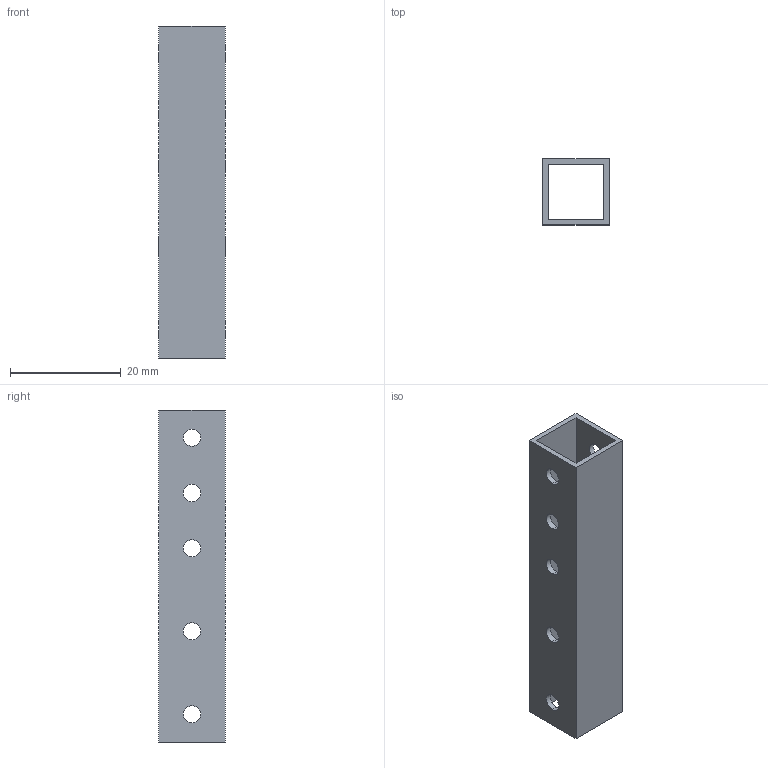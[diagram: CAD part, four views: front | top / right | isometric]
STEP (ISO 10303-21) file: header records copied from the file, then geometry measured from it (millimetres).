
FILE_DESCRIPTION (( 'STEP AP203' ), '1' );
FILE_NAME ('源倛抯奪-3.STEP', '2026-07-29T04:00:06', ( '' ), ( '' ), 'SwSTEP 2.0', 'SolidWorks 2025', '' );
FILE_SCHEMA (( 'CONFIG_CONTROL_DESIGN' ));
Length unit declared in the file: millimetre
Products named in the file (1): 方形碳管-3
Bounding box: 12 x 12 x 60 mm (x, y, z)
Volume: 2564.5 mm3; surface area: 5314.4 mm2
Topology: 1 solids, 1 shells, 30 faces, 84 edges, 56 vertices
Faces by surface type: cylinder 20, plane 10
Entity records: 1109 total; most frequent: DIRECTION 186, CARTESIAN_POINT 171, ORIENTED_EDGE 168, EDGE_CURVE 84, AXIS2_PLACEMENT_3D 71, VERTEX_POINT 56, EDGE_LOOP 52, LINE 44
